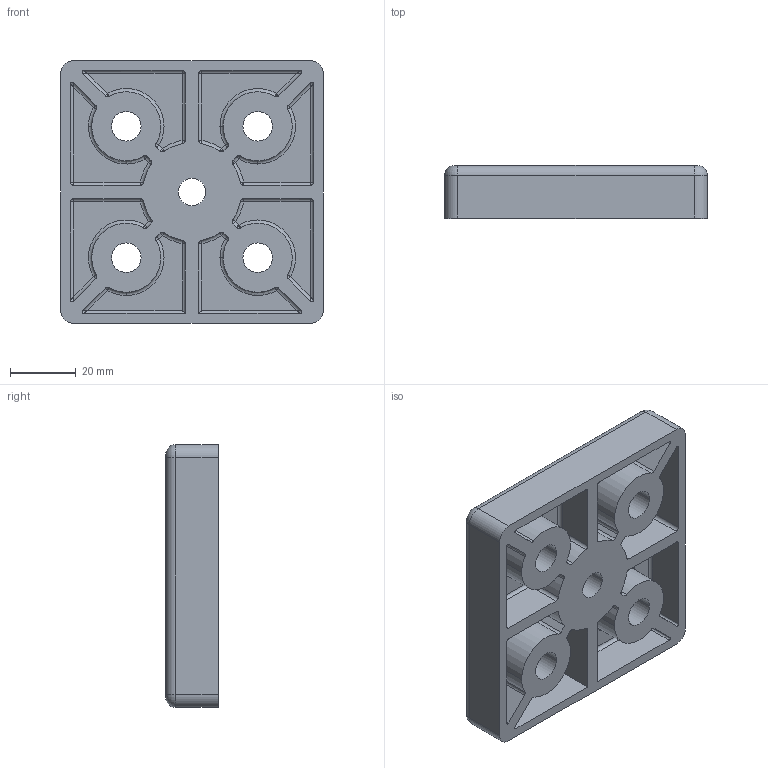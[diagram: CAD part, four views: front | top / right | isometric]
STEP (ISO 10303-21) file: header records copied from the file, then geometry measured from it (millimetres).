
FILE_DESCRIPTION (( 'STEP AP203' ), '1' );
FILE_NAME ('10147_FUS8080M10.STEP', '2018-03-15T10:16:59', ( '' ), ( '' ), 'SwSTEP 2.0', 'SolidWorks 2017', '' );
FILE_SCHEMA (( 'CONFIG_CONTROL_DESIGN' ));
Length unit declared in the file: millimetre
Products named in the file (1): 10147_FUS8080M10
Bounding box: 80 x 16 x 80 mm (x, y, z)
Volume: 59385.2 mm3; surface area: 29142.6 mm2
Topology: 1 solids, 1 shells, 269 faces, 666 edges, 392 vertices
Faces by surface type: cylinder 131, plane 50, sphere 46, torus 33, bspline 9
Entity records: 8579 total; most frequent: CARTESIAN_POINT 2181, DIRECTION 1479, ORIENTED_EDGE 1250, EDGE_CURVE 625, AXIS2_PLACEMENT_3D 620, VERTEX_POINT 370, CIRCLE 359, EDGE_LOOP 291
